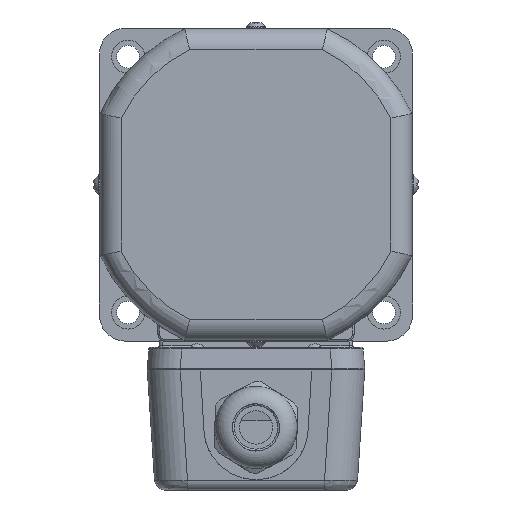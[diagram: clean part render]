
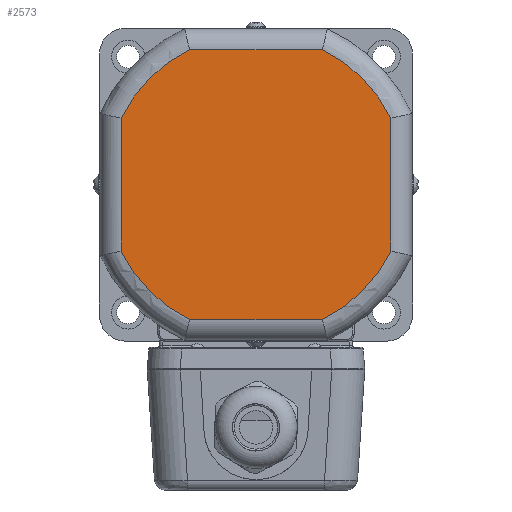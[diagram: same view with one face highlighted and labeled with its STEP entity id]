
A CAD part, left-side view. The second image highlights one B-rep face of the part: STEP entity #2573.
In plain terms, the highlighted planar face has unit normal (-1, 0, 0).
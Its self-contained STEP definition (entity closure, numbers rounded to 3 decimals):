
#2498=CARTESIAN_POINT('',(-17.8,0.,0.));
#2499=DIRECTION('',(1.0,0.0,0.0));
#2500=DIRECTION('',(0.0,0.0,-1.0));
#2501=AXIS2_PLACEMENT_3D('',#2498,#2499,#2500);
#2502=PLANE('',#2501);
#2503=CARTESIAN_POINT('',(-17.8,38.8,-19.108));
#2504=VERTEX_POINT('',#2503);
#2505=CARTESIAN_POINT('',(-17.8,38.8,19.108));
#2506=VERTEX_POINT('',#2505);
#2507=CARTESIAN_POINT('',(-17.8,38.8,-19.108));
#2508=DIRECTION('',(0.0,0.0,1.0));
#2509=VECTOR('',#2508,38.216);
#2510=LINE('',#2507,#2509);
#2511=EDGE_CURVE('',#2504,#2506,#2510,.T.);
#2512=ORIENTED_EDGE('',*,*,#2511,.F.);
#2513=CARTESIAN_POINT('',(-17.8,19.108,-38.8));
#2514=VERTEX_POINT('',#2513);
#2515=CARTESIAN_POINT('',(-17.8,0.,0.));
#2516=DIRECTION('',(1.,0.,0.));
#2517=DIRECTION('',(0.,0.707,-0.707));
#2518=AXIS2_PLACEMENT_3D('',#2515,#2516,#2517);
#2519=CIRCLE('',#2518,43.25);
#2520=EDGE_CURVE('',#2514,#2504,#2519,.T.);
#2521=ORIENTED_EDGE('',*,*,#2520,.F.);
#2522=CARTESIAN_POINT('',(-17.8,-19.108,-38.8));
#2523=VERTEX_POINT('',#2522);
#2524=CARTESIAN_POINT('',(-17.8,-19.108,-38.8));
#2525=DIRECTION('',(0.0,1.0,0.0));
#2526=VECTOR('',#2525,38.216);
#2527=LINE('',#2524,#2526);
#2528=EDGE_CURVE('',#2523,#2514,#2527,.T.);
#2529=ORIENTED_EDGE('',*,*,#2528,.F.);
#2530=CARTESIAN_POINT('',(-17.8,-38.8,-19.108));
#2531=VERTEX_POINT('',#2530);
#2532=CARTESIAN_POINT('',(-17.8,0.,0.));
#2533=DIRECTION('',(1.0,0.,0.));
#2534=DIRECTION('',(0.,-0.707,-0.707));
#2535=AXIS2_PLACEMENT_3D('',#2532,#2533,#2534);
#2536=CIRCLE('',#2535,43.25);
#2537=EDGE_CURVE('',#2531,#2523,#2536,.T.);
#2538=ORIENTED_EDGE('',*,*,#2537,.F.);
#2539=CARTESIAN_POINT('',(-17.8,-38.8,19.108));
#2540=VERTEX_POINT('',#2539);
#2541=CARTESIAN_POINT('',(-17.8,-38.8,19.108));
#2542=DIRECTION('',(0.0,0.0,-1.0));
#2543=VECTOR('',#2542,38.216);
#2544=LINE('',#2541,#2543);
#2545=EDGE_CURVE('',#2540,#2531,#2544,.T.);
#2546=ORIENTED_EDGE('',*,*,#2545,.F.);
#2547=CARTESIAN_POINT('',(-17.8,-19.108,38.8));
#2548=VERTEX_POINT('',#2547);
#2549=CARTESIAN_POINT('',(-17.8,0.,0.));
#2550=DIRECTION('',(1.0,0.,0.));
#2551=DIRECTION('',(0.,-0.707,0.707));
#2552=AXIS2_PLACEMENT_3D('',#2549,#2550,#2551);
#2553=CIRCLE('',#2552,43.25);
#2554=EDGE_CURVE('',#2548,#2540,#2553,.T.);
#2555=ORIENTED_EDGE('',*,*,#2554,.F.);
#2556=CARTESIAN_POINT('',(-17.8,19.108,38.8));
#2557=VERTEX_POINT('',#2556);
#2558=CARTESIAN_POINT('',(-17.8,19.108,38.8));
#2559=DIRECTION('',(0.0,-1.0,0.0));
#2560=VECTOR('',#2559,38.216);
#2561=LINE('',#2558,#2560);
#2562=EDGE_CURVE('',#2557,#2548,#2561,.T.);
#2563=ORIENTED_EDGE('',*,*,#2562,.F.);
#2564=CARTESIAN_POINT('',(-17.8,0.,0.));
#2565=DIRECTION('',(1.0,0.,0.));
#2566=DIRECTION('',(0.,0.707,0.707));
#2567=AXIS2_PLACEMENT_3D('',#2564,#2565,#2566);
#2568=CIRCLE('',#2567,43.25);
#2569=EDGE_CURVE('',#2506,#2557,#2568,.T.);
#2570=ORIENTED_EDGE('',*,*,#2569,.F.);
#2571=EDGE_LOOP('',(#2512,#2521,#2529,#2538,#2546,#2555,#2563,#2570));
#2572=FACE_OUTER_BOUND('',#2571,.T.);
#2573=ADVANCED_FACE('',(#2572),#2502,.F.);
